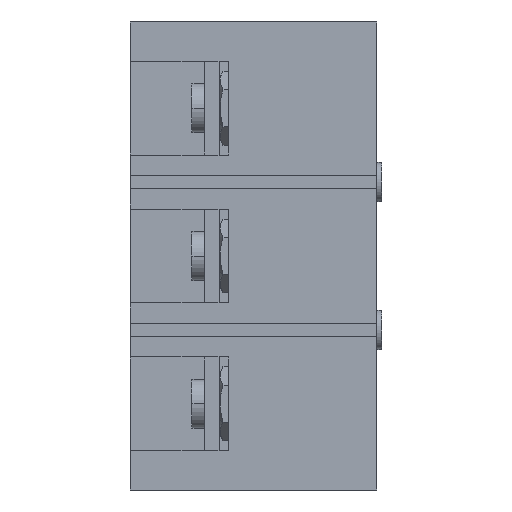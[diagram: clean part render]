
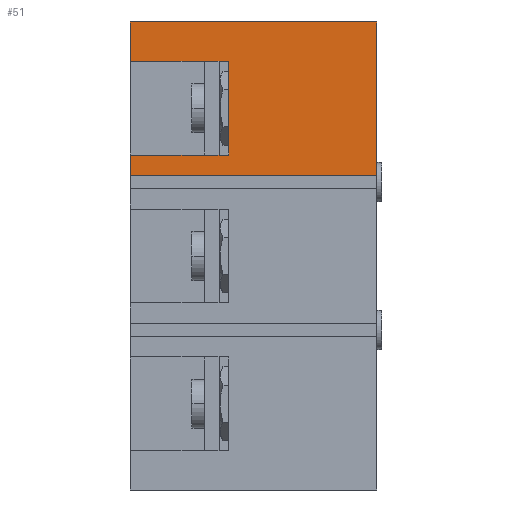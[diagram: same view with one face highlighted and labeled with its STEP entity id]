
A CAD part, left-side view. The second image highlights one B-rep face of the part: STEP entity #51.
In plain terms, the highlighted planar face has unit normal (-1, 0, 0).
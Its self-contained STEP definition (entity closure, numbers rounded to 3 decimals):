
#51 = ADVANCED_FACE ( 'NONE', ( #68543 ), #44667, .F. ) ;
#2247 = VECTOR ( 'NONE', #73086, 1000. ) ;
#4810 = LINE ( 'NONE', #78800, #68405 ) ;
#5064 = VECTOR ( 'NONE', #14327, 1000. ) ;
#5380 = LINE ( 'NONE', #32680, #43465 ) ;
#5991 = CARTESIAN_POINT ( 'NONE',  ( -85.75, 50., 47.5 ) ) ;
#9332 = VECTOR ( 'NONE', #14195, 1000. ) ;
#9577 = DIRECTION ( 'NONE',  ( 0., -1., 0. ) ) ;
#9896 = ORIENTED_EDGE ( 'NONE', *, *, #10977, .F. ) ;
#10977 = EDGE_CURVE ( 'NONE', #74261, #35685, #5380, .T. ) ;
#11390 = EDGE_CURVE ( 'NONE', #47690, #20752, #23736, .T. ) ;
#11409 = EDGE_CURVE ( 'NONE', #14636, #36034, #50368, .T. ) ;
#12371 = CARTESIAN_POINT ( 'NONE',  ( -85.75, 50., 39.5 ) ) ;
#13037 = EDGE_CURVE ( 'NONE', #74261, #15231, #55553, .T. ) ;
#13398 = EDGE_CURVE ( 'NONE', #78251, #28319, #79411, .T. ) ;
#13984 = DIRECTION ( 'NONE',  ( 1., 0., 0. ) ) ;
#14195 = DIRECTION ( 'NONE',  ( 0., 0., 1. ) ) ;
#14220 = EDGE_LOOP ( 'NONE', ( #46634, #65723, #25225, #18870, #66547, #48078, #39865, #41963, #76874, #24726, #14368, #35840, #9896, #51833, #58620, #18490 ) ) ;
#14302 = VECTOR ( 'NONE', #62825, 1000. ) ;
#14327 = DIRECTION ( 'NONE',  ( 0., 0., -1. ) ) ;
#14368 = ORIENTED_EDGE ( 'NONE', *, *, #14804, .T. ) ;
#14587 = LINE ( 'NONE', #39245, #9332 ) ;
#14636 = VERTEX_POINT ( 'NONE', #66881 ) ;
#14804 = EDGE_CURVE ( 'NONE', #14636, #42443, #36553, .T. ) ;
#15150 = EDGE_CURVE ( 'NONE', #47690, #28319, #53416, .T. ) ;
#15228 = VECTOR ( 'NONE', #20766, 1000. ) ;
#15231 = VERTEX_POINT ( 'NONE', #36454 ) ;
#15785 = DIRECTION ( 'NONE',  ( 0., 1., 0. ) ) ;
#16812 = VECTOR ( 'NONE', #15785, 1000. ) ;
#17289 = VERTEX_POINT ( 'NONE', #5991 ) ;
#17443 = LINE ( 'NONE', #67929, #60919 ) ;
#18027 = VERTEX_POINT ( 'NONE', #24641 ) ;
#18490 = ORIENTED_EDGE ( 'NONE', *, *, #22172, .F. ) ;
#18533 = EDGE_CURVE ( 'NONE', #36034, #18027, #51487, .T. ) ;
#18659 = AXIS2_PLACEMENT_3D ( 'NONE', #69360, #13984, #38628 ) ;
#18870 = ORIENTED_EDGE ( 'NONE', *, *, #24766, .F. ) ;
#19970 = VECTOR ( 'NONE', #31671, 1000. ) ;
#20116 = DIRECTION ( 'NONE',  ( 0., 1., 0. ) ) ;
#20346 = EDGE_CURVE ( 'NONE', #43319, #17289, #17443, .T. ) ;
#20752 = VERTEX_POINT ( 'NONE', #48424 ) ;
#20766 = DIRECTION ( 'NONE',  ( 0., 0., -1. ) ) ;
#22172 = EDGE_CURVE ( 'NONE', #20752, #63923, #28521, .T. ) ;
#22388 = EDGE_CURVE ( 'NONE', #17289, #35864, #4810, .T. ) ;
#22778 = CARTESIAN_POINT ( 'NONE',  ( -85.75, 50., 47.5 ) ) ;
#23218 = VECTOR ( 'NONE', #9577, 1000. ) ;
#23736 = LINE ( 'NONE', #48376, #2247 ) ;
#24462 = CARTESIAN_POINT ( 'NONE',  ( -85.75, 30., 20.5 ) ) ;
#24503 = CARTESIAN_POINT ( 'NONE',  ( -85.75, 0., 47.5 ) ) ;
#24641 = CARTESIAN_POINT ( 'NONE',  ( -85.75, 35., 39.5 ) ) ;
#24726 = ORIENTED_EDGE ( 'NONE', *, *, #11409, .F. ) ;
#24766 = EDGE_CURVE ( 'NONE', #46887, #78251, #25773, .T. ) ;
#25225 = ORIENTED_EDGE ( 'NONE', *, *, #13398, .F. ) ;
#25773 = LINE ( 'NONE', #33430, #58640 ) ;
#27006 = CARTESIAN_POINT ( 'NONE',  ( -85.75, 30., 20.5 ) ) ;
#28319 = VERTEX_POINT ( 'NONE', #58884 ) ;
#28521 = LINE ( 'NONE', #53145, #23218 ) ;
#29509 = EDGE_CURVE ( 'NONE', #35685, #42443, #34354, .T. ) ;
#31671 = DIRECTION ( 'NONE',  ( 0., 0., -1. ) ) ;
#32680 = CARTESIAN_POINT ( 'NONE',  ( -85.75, 30., 39.5 ) ) ;
#33430 = CARTESIAN_POINT ( 'NONE',  ( -85.75, 0., 16.25 ) ) ;
#34354 = LINE ( 'NONE', #48365, #16812 ) ;
#35437 = EDGE_CURVE ( 'NONE', #18027, #43319, #36329, .T. ) ;
#35685 = VERTEX_POINT ( 'NONE', #65363 ) ;
#35840 = ORIENTED_EDGE ( 'NONE', *, *, #29509, .F. ) ;
#35864 = VERTEX_POINT ( 'NONE', #24503 ) ;
#36013 = CARTESIAN_POINT ( 'NONE',  ( -85.75, 32., 39.5 ) ) ;
#36034 = VERTEX_POINT ( 'NONE', #77831 ) ;
#36329 = LINE ( 'NONE', #79644, #38136 ) ;
#36454 = CARTESIAN_POINT ( 'NONE',  ( -85.75, 32., 20.5 ) ) ;
#36553 = LINE ( 'NONE', #37738, #19970 ) ;
#37738 = CARTESIAN_POINT ( 'NONE',  ( -85.75, 32., 47.5 ) ) ;
#38136 = VECTOR ( 'NONE', #56489, 1000. ) ;
#38628 = DIRECTION ( 'NONE',  ( 0., 1., 0. ) ) ;
#39245 = CARTESIAN_POINT ( 'NONE',  ( -85.75, 0., 47.5 ) ) ;
#39865 = ORIENTED_EDGE ( 'NONE', *, *, #20346, .F. ) ;
#40442 = CARTESIAN_POINT ( 'NONE',  ( -85.75, 35., 20.5 ) ) ;
#41315 = CARTESIAN_POINT ( 'NONE',  ( -85.75, 30., 20.5 ) ) ;
#41963 = ORIENTED_EDGE ( 'NONE', *, *, #35437, .F. ) ;
#42443 = VERTEX_POINT ( 'NONE', #36013 ) ;
#43319 = VERTEX_POINT ( 'NONE', #12371 ) ;
#43465 = VECTOR ( 'NONE', #74462, 1000. ) ;
#44206 = LINE ( 'NONE', #62817, #15228 ) ;
#44304 = DIRECTION ( 'NONE',  ( 0., 1., 0. ) ) ;
#44523 = VECTOR ( 'NONE', #65967, 1000. ) ;
#44667 = PLANE ( 'NONE',  #18659 ) ;
#46634 = ORIENTED_EDGE ( 'NONE', *, *, #11390, .F. ) ;
#46887 = VERTEX_POINT ( 'NONE', #58895 ) ;
#47690 = VERTEX_POINT ( 'NONE', #40442 ) ;
#48078 = ORIENTED_EDGE ( 'NONE', *, *, #22388, .F. ) ;
#48365 = CARTESIAN_POINT ( 'NONE',  ( -85.75, 30., 39.5 ) ) ;
#48376 = CARTESIAN_POINT ( 'NONE',  ( -85.75, 35., 47.5 ) ) ;
#48424 = CARTESIAN_POINT ( 'NONE',  ( -85.75, 35., 20.499 ) ) ;
#49569 = CARTESIAN_POINT ( 'NONE',  ( -85.75, 50., 39.501 ) ) ;
#50293 = CARTESIAN_POINT ( 'NONE',  ( -85.75, 35., 47.5 ) ) ;
#50368 = LINE ( 'NONE', #49569, #61573 ) ;
#50929 = CARTESIAN_POINT ( 'NONE',  ( -85.75, 50., 16.25 ) ) ;
#51487 = LINE ( 'NONE', #50293, #5064 ) ;
#51833 = ORIENTED_EDGE ( 'NONE', *, *, #13037, .T. ) ;
#53145 = CARTESIAN_POINT ( 'NONE',  ( -85.75, 50., 20.499 ) ) ;
#53416 = LINE ( 'NONE', #41315, #44523 ) ;
#55553 = LINE ( 'NONE', #24462, #14302 ) ;
#56489 = DIRECTION ( 'NONE',  ( 0., 1., 0. ) ) ;
#58620 = ORIENTED_EDGE ( 'NONE', *, *, #76173, .T. ) ;
#58640 = VECTOR ( 'NONE', #20116, 1000. ) ;
#58884 = CARTESIAN_POINT ( 'NONE',  ( -85.75, 50., 20.5 ) ) ;
#58895 = CARTESIAN_POINT ( 'NONE',  ( -85.75, 0., 16.25 ) ) ;
#60919 = VECTOR ( 'NONE', #73230, 1000. ) ;
#61573 = VECTOR ( 'NONE', #44304, 1000. ) ;
#62817 = CARTESIAN_POINT ( 'NONE',  ( -85.75, 32., 47.5 ) ) ;
#62825 = DIRECTION ( 'NONE',  ( 0., 1., 0. ) ) ;
#63375 = VECTOR ( 'NONE', #72097, 1000. ) ;
#63891 = CARTESIAN_POINT ( 'NONE',  ( -85.75, 32., 20.499 ) ) ;
#63923 = VERTEX_POINT ( 'NONE', #63891 ) ;
#65363 = CARTESIAN_POINT ( 'NONE',  ( -85.75, 30., 39.5 ) ) ;
#65723 = ORIENTED_EDGE ( 'NONE', *, *, #15150, .T. ) ;
#65967 = DIRECTION ( 'NONE',  ( 0., 1., 0. ) ) ;
#66547 = ORIENTED_EDGE ( 'NONE', *, *, #79539, .T. ) ;
#66881 = CARTESIAN_POINT ( 'NONE',  ( -85.75, 32., 39.501 ) ) ;
#67929 = CARTESIAN_POINT ( 'NONE',  ( -85.75, 50., 47.5 ) ) ;
#68405 = VECTOR ( 'NONE', #79199, 1000. ) ;
#68543 = FACE_OUTER_BOUND ( 'NONE', #14220, .T. ) ;
#69360 = CARTESIAN_POINT ( 'NONE',  ( -85.75, 50., 47.5 ) ) ;
#72097 = DIRECTION ( 'NONE',  ( 0., 0., 1. ) ) ;
#73086 = DIRECTION ( 'NONE',  ( 0., 0., -1. ) ) ;
#73230 = DIRECTION ( 'NONE',  ( 0., 0., 1. ) ) ;
#74261 = VERTEX_POINT ( 'NONE', #27006 ) ;
#74462 = DIRECTION ( 'NONE',  ( 0., 0., 1. ) ) ;
#76173 = EDGE_CURVE ( 'NONE', #15231, #63923, #44206, .T. ) ;
#76874 = ORIENTED_EDGE ( 'NONE', *, *, #18533, .F. ) ;
#77831 = CARTESIAN_POINT ( 'NONE',  ( -85.75, 35., 39.501 ) ) ;
#78251 = VERTEX_POINT ( 'NONE', #50929 ) ;
#78800 = CARTESIAN_POINT ( 'NONE',  ( -85.75, 50., 47.5 ) ) ;
#79199 = DIRECTION ( 'NONE',  ( 0., -1., 0. ) ) ;
#79411 = LINE ( 'NONE', #22778, #63375 ) ;
#79539 = EDGE_CURVE ( 'NONE', #46887, #35864, #14587, .T. ) ;
#79644 = CARTESIAN_POINT ( 'NONE',  ( -85.75, 30., 39.5 ) ) ;
